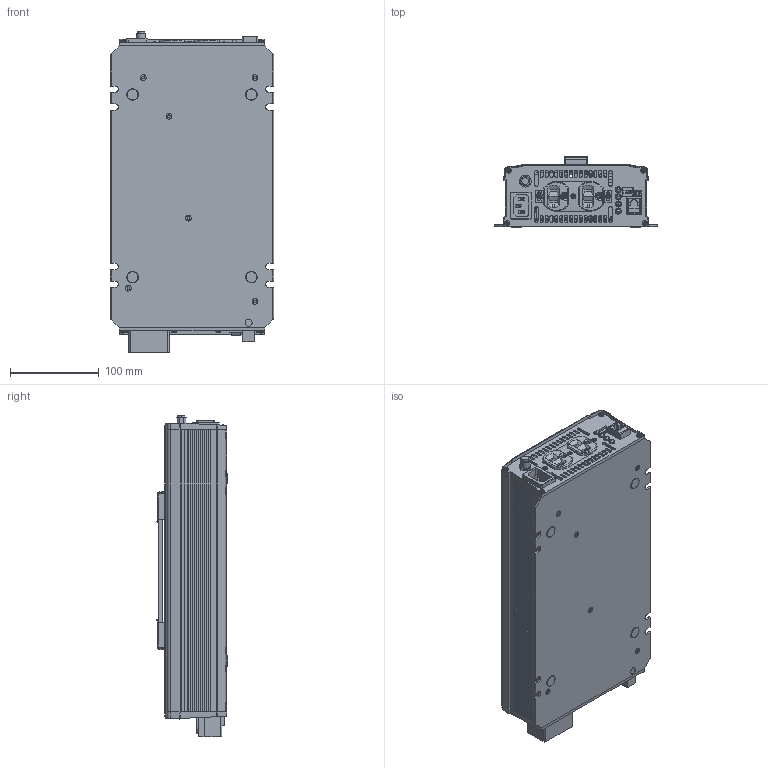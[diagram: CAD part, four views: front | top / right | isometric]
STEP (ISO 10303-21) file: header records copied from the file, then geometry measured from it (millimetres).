
FILE_DESCRIPTION(('Creo Elements/Direct Modeling STEP Export'),'2;1');
FILE_NAME('NTU-1200US.stp','2021-07-01T14:47:51',(''),(''),'PTC Creo Elements/Direct Modeling STEP processor for AP214 (Solid Model)','PTC Creo Elements/Direct Modeling 19.0A 04-Oct-2014 (C) Parametric Technology GmbH','');
FILE_SCHEMA(('AUTOMOTIVE_DESIGN { 1 0 10303 214 1 1 1 1 }'));
Length unit declared in the file: millimetre
Products named in the file (136): INPUT; 19-30286-1312__w__.1.1.1.1; 19-30286-1312__w__.1.1.1; 19-30286-1312__w__.1; 19-30286-1312__w__.1.1; 19-30286-1312__w__.1.2; 19-30286-1312__w__.1.2.1; 19-30286-1312__w__.1.2.1.1; 装配2; 螺丝; 1xx3NTU-1200-I; PCBB; PCBA; PCBC; PCB; PCB-D; 9727R_PCB_ASM_ASM_ASM_16_ASM_1_.ASM; STANDARD_ASM_ASM_ASM_16_ASM_1_A.ASM; 拨码开关; E_1_PRT_16_1_1_5.PRT; E_PRT_16_1_1_5.PRT; LED_1_PRT_2_1_1_1_1_1_1_PRT_16_.PRT.7; P1.PRT; PHONE_JACK_1.PRT; 9727R_PCB.ASM; STANDARD.ASM; 9727R_PHII.ASM; DP1; 小卡装配; MOS15_5X10_1_1_1_1_1_1_1_1_1_2_.PRT.27; P3; MOSTO3P_1_1_PRT_16_1_1_5.PRT.41; MOSTO3P_1_1_PRT_16_1_1_5.PRT.40; BREAKER; MOSTO3P_1_1_PRT_16_1_1_5.PRT.42; 22; 33; AL_1_PRT_16_1_1_5.PRT.5; EE_2_PRT_16_1_1_5.PRT.22; ON-OFF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
Assembly tree (159 placements, depth 9):
  NTU-1200US.stp
    NTU-1200
      E-07-A2.美规带耳朵
        E-07-A2_1.ASM
          E09-002C-27468.ASM
            1.PRT  x2
            E09-011.PRT  x2
            E09-002C-12095.PRT
            E06-008B.PRT
          E09A.PRT
          E09-003.PRT
          E09-008-27547.ASM.9  x4
            E09-008_008A.PRT
            E09-008-12243.PRT
          E09C.PRT
      1xx3NTU-1200US-O
      装配1
        螺丝.1
          装配2
            19-30286-1312__w__.1.2.1.1.1
            19-30286-1312__w__.1.2.1.1
            19-30286-1312__w__.1.2.1
            19-30286-1312__w__.1.2
            19-30286-1312__w__.1.1
            19-30286-1312__w__.1
            19-30286-1312__w__.1.1.1
            19-30286-1312__w__.1.1.1.1
        1GG
          YS031W-074.1
          YS031W-074
          HS-SZ901
          CU-177-1  x2
          HS-659
            HS3_1_ASM_5.ASM
              HS3_5.PRT
              PIN_1_5.PRT
          HS-660
          33_PRT_16_1_1_5.PRT.38  x2
          HS-272B
        1HH
          1HH2NTU-1200A.1
          130x65
          THERMAL_PAD-2_5.PRT
          THERMAL_PAD-1_8.PRT
          SI_PRT_16_1_1_5.PRT
          SILICONE_PAD_5.PRT
          MYLAR_PRT_16_1_1_5.PRT
          MYLAR-2_5.PRT
          1HH2NTU-120019
        CASE
          六角間隔柱
          六角間隔柱.1
          PAD
            FOOT_PAD_7_1.PRT.30
            FOOT_PAD_7_1.PRT.31
            FOOT_PAD_7_1.PRT
            FOOT_PAD_7_1.PRT.29
          固纬把手
            174
            guwei1
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Bounding box: 184 x 79.45 x 363.06 mm (x, y, z)
Volume: 1003779.4 mm3; surface area: 899856.2 mm2
Topology: 118 solids, 118 shells, 4759 faces, 12414 edges, 8072 vertices
Faces by surface type: plane 3003, cylinder 1170, cone 351, bspline 92, torus 78, sphere 64, extrusion 1
Entity records: 139598 total; most frequent: CARTESIAN_POINT 28788, ORIENTED_EDGE 21272, DIRECTION 19966, EDGE_CURVE 10622, VECTOR 7328, LINE 7327, VERTEX_POINT 6937, AXIS2_PLACEMENT_3D 6319
